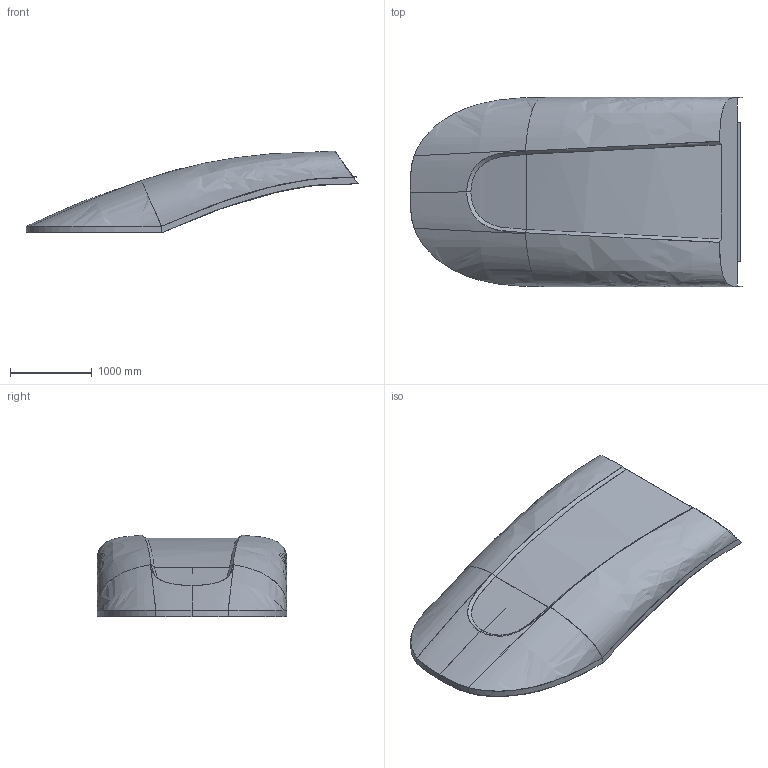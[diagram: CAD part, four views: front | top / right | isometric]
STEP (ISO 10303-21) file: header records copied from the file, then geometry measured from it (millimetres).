
FILE_DESCRIPTION(/* description */ (''),/* implementation_level */ '2;1');
FILE_NAME(/* name */ 'roof_part_1',/* time_stamp */ '2018-02-20T19:06:27+01:00',/* author */ (''),/* organization */ (''),/* preprocessor_version */ 'ST-DEVELOPER v14',/* originating_system */ '',/* authorisation */ '');
FILE_SCHEMA (('CONFIG_CONTROL_DESIGN'));
Length unit declared in the file: millimetre
Products named in the file (1): Document
Bounding box: 4061.93 x 2314 x 999.58 mm (x, y, z)
Surface area: 23594096.8 mm2 (no closed solid volume)
Topology: 0 solids, 1 shells, 53 faces, 119 edges, 65 vertices
Faces by surface type: bspline 47, plane 6
Entity records: 32090 total; most frequent: CARTESIAN_POINT 31239, ORIENTED_EDGE 232, EDGE_CURVE 119, B_SPLINE_CURVE_WITH_KNOTS 119, VERTEX_POINT 65, ADVANCED_FACE 53, FACE_OUTER_BOUND 53, EDGE_LOOP 53
